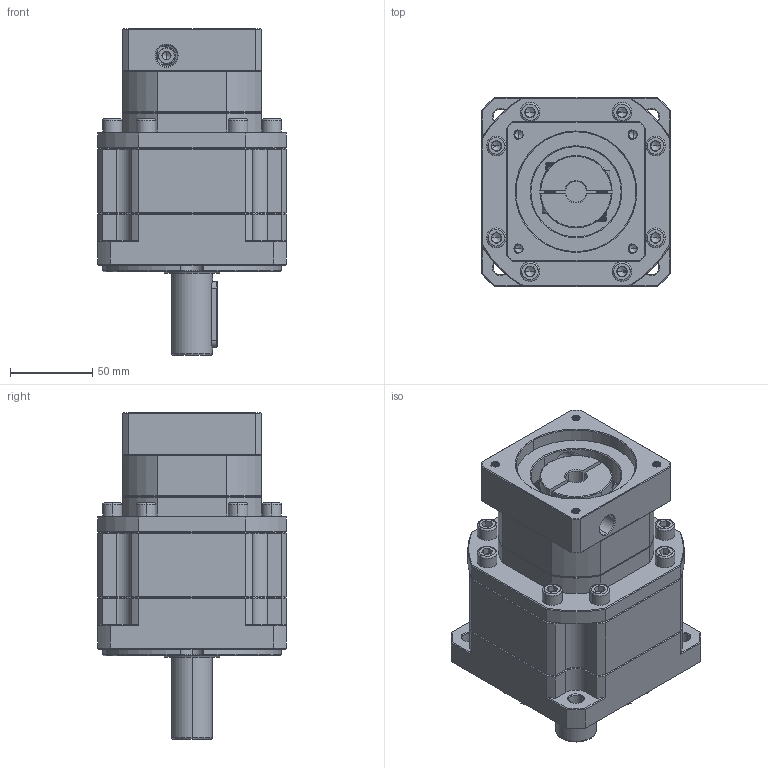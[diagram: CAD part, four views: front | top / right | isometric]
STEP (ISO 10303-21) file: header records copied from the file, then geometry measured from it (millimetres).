
FILE_DESCRIPTION (( 'STEP AP214' ), '1' );
FILE_NAME ('ZB115A-D25-L2-12.7-73-69.5X69.5-M6.step', '2023-03-03T09:51:24', ( '' ), ( 'Microsoft' ), 'SwSTEP 2.0', 'SolidWorks 2016', '' );
FILE_SCHEMA (( 'AUTOMOTIVE_DESIGN' ));
Length unit declared in the file: millimetre
Products named in the file (1): ZB115A-D25-L2-12.7-73-69.5X69.5-M6
Bounding box: 115 x 115 x 199 mm (x, y, z)
Volume: 1360596.3 mm3; surface area: 133114.6 mm2
Topology: 5 solids, 6 shells, 2131 faces, 5499 edges, 3465 vertices
Faces by surface type: plane 1006, cylinder 425, cone 356, bspline 329, torus 15
Entity records: 112174 total; most frequent: CARTESIAN_POINT 39759, ORIENTED_EDGE 10922, DIRECTION 8959, EDGE_CURVE 5461, VERTEX_POINT 3465, VECTOR 3417, LINE 3417, AXIS2_PLACEMENT_3D 2771
